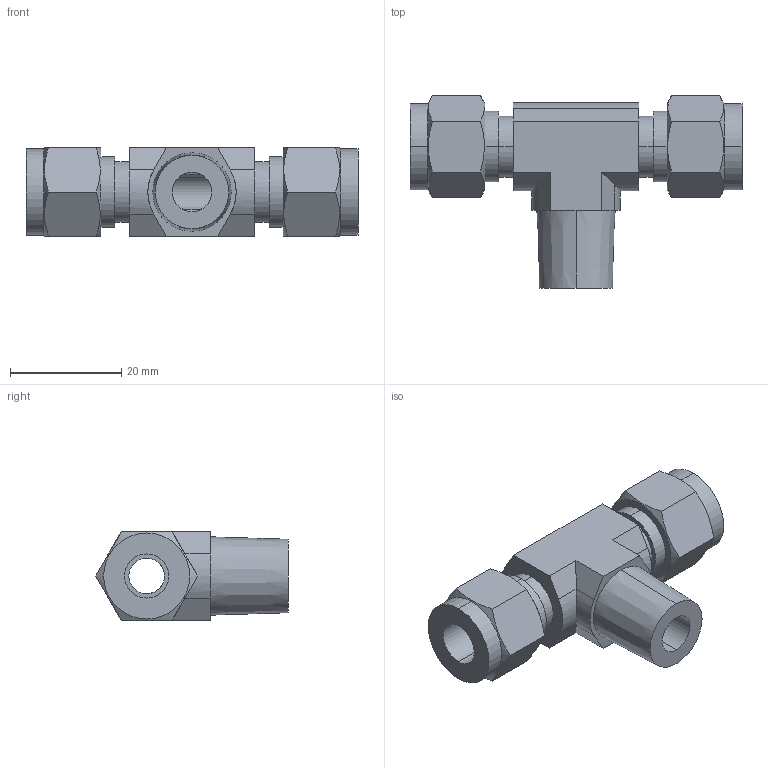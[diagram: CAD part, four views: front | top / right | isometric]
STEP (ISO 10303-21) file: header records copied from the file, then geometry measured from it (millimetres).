
FILE_DESCRIPTION (( 'STEP AP203' ), '1' );
FILE_NAME ('DTN 05-04 SS.STEP', '2009-09-08T10:09:28', ( 'Your User Name' ), ( 'Your Company Name' ), 'SwSTEP 2.0', 'SolidWorks 2008', '' );
FILE_SCHEMA (( 'CONFIG_CONTROL_DESIGN' ));
Length unit declared in the file: millimetre
Products named in the file (1): DTN 05-04 SS
Bounding box: 59.8 x 34.67 x 15.9 mm (x, y, z)
Volume: 11251.5 mm3; surface area: 6484.6 mm2
Topology: 1 solids, 1 shells, 75 faces, 182 edges, 117 vertices
Faces by surface type: plane 36, cylinder 26, cone 13
Entity records: 2544 total; most frequent: CARTESIAN_POINT 726, ORIENTED_EDGE 364, DIRECTION 351, EDGE_CURVE 182, AXIS2_PLACEMENT_3D 132, VERTEX_POINT 117, EDGE_LOOP 87, VECTOR 87
